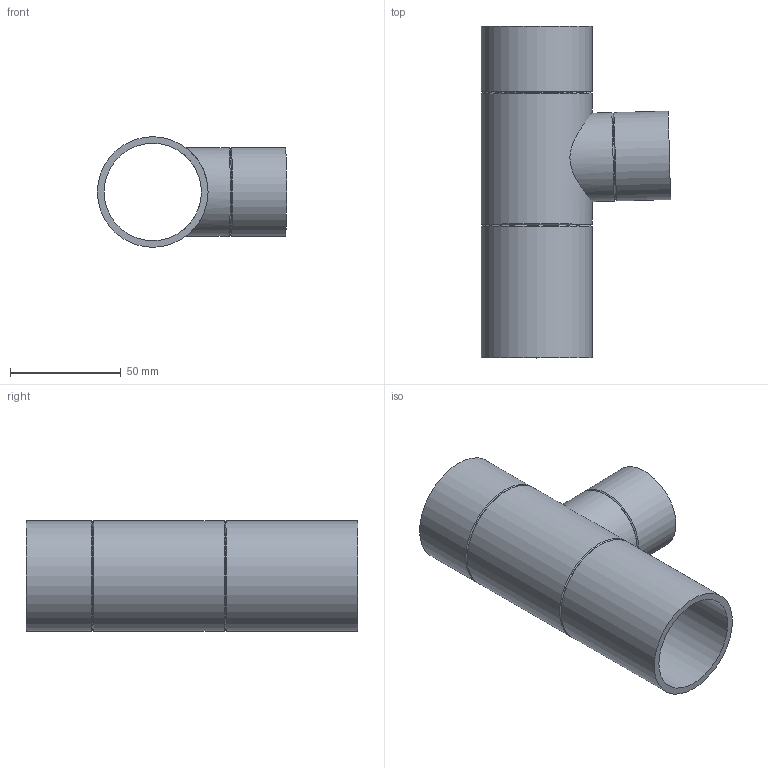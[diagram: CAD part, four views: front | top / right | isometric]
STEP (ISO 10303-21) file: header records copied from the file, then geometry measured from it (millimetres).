
FILE_DESCRIPTION(/* description */ (''),/* implementation_level */ '2;1');
FILE_NAME(/* name */ 'Z:\Geberit\Export\NewStep\361159.stp',/* time_stamp */ '2014-04-01T21:03:30+02:00',/* author */ ('nelson'),/* organization */ (''),/* preprocessor_version */ 'ST-DEVELOPER v15.2',/* originating_system */ 'Autodesk Inventor 2014',/* authorisation */ '');
FILE_SCHEMA (('AUTOMOTIVE_DESIGN { 1 0 10303 214 3 1 1 }'));
Length unit declared in the file: millimetre
Products named in the file (1): 361159
Bounding box: 85.5 x 150 x 50 mm (x, y, z)
Volume: 76944.5 mm3; surface area: 52763.5 mm2
Topology: 1 solids, 1 shells, 16 faces, 37 edges, 23 vertices
Faces by surface type: cylinder 7, cone 6, plane 3
Full cylindrical faces by diameter (mm): 34 x1, 40 x2, 44 x1, 50 x3
Entity records: 503 total; most frequent: CARTESIAN_POINT 181, DIRECTION 64, EDGE_LOOP 34, ORIENTED_EDGE 34, AXIS2_PLACEMENT_3D 32, FACE_BOUND 22, VERTEX_POINT 17, EDGE_CURVE 17
